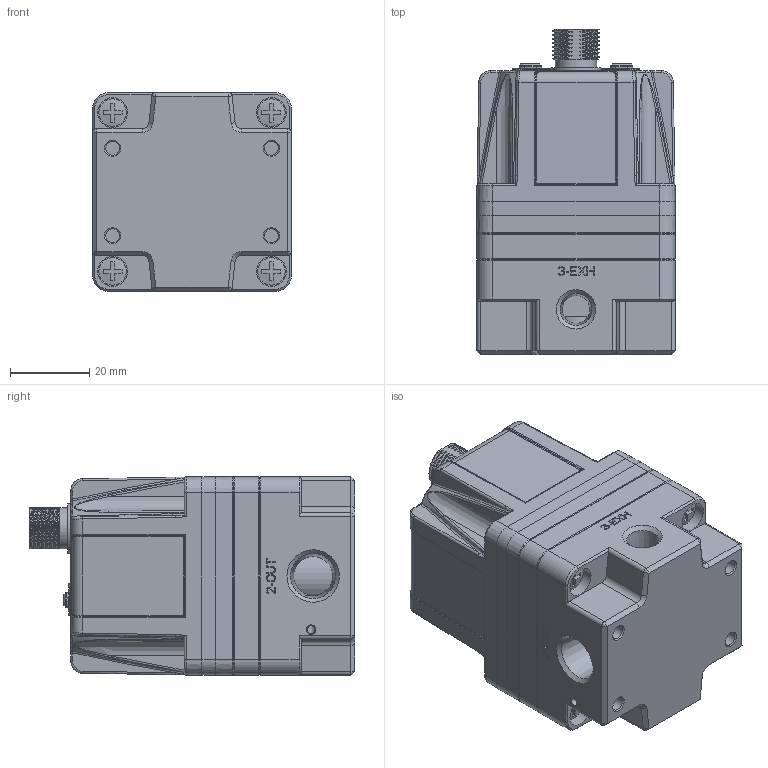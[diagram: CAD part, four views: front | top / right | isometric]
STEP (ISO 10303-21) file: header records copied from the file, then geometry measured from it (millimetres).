
FILE_DESCRIPTION(/* description */ ('Druckregler'),/* implementation_level */ '2;1');
FILE_NAME(/* name */ 'X:\Zeichnungen\3D\82-EPV-1.stp',/* time_stamp */ '2022-11-15T07:03:21+01:00',/* author */ ('Tschernatsch'),/* organization */ (''),/* preprocessor_version */ 'ST-DEVELOPER v17.2',/* originating_system */ 'Autodesk Inventor 2019',/* authorisation */ '');
FILE_SCHEMA (('AUTOMOTIVE_DESIGN { 1 0 10303 214 3 1 1 }'));
Products named in the file (1): 82-EPV-1-5-3-1-F1
Bounding box: 50 x 82 x 50 mm (x, y, z)
Volume: 98999.2 mm3; surface area: 45616.2 mm2
Topology: 1 solids, 6 shells, 2546 faces, 6570 edges, 4127 vertices
Faces by surface type: plane 1272, cylinder 589, bspline 297, torus 199, cone 163, sphere 26
Full cylindrical faces by diameter (mm): 1 x4, 1.2 x7, 1.4 x4, 2 x4, 2.5 x1, 3.5 x4, 4 x8, 4.2 x4, 4.5 x4, 6 x4, 6.2 x4, 6.3 x4, 6.9 x4, 7.039 x1, 7.5 x4, 8.3 x3, 9.855 x2, 10.4 x1, 12.5 x1
Entity records: 107738 total; most frequent: CARTESIAN_POINT 45202, ORIENTED_EDGE 13096, DIRECTION 12327, EDGE_CURVE 6548, AXIS2_PLACEMENT_3D 4188, VERTEX_POINT 4127, LINE 3951, VECTOR 3951
